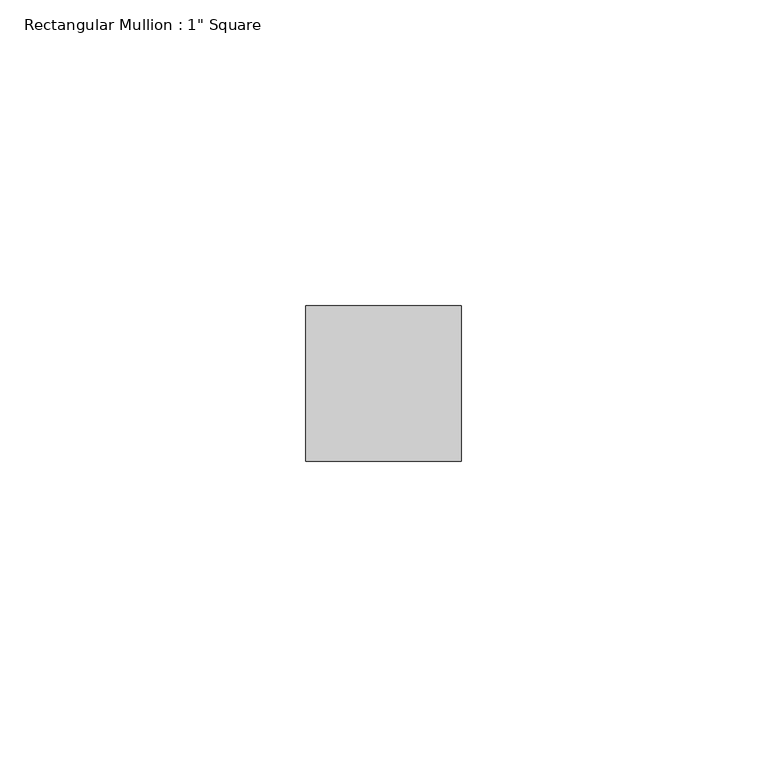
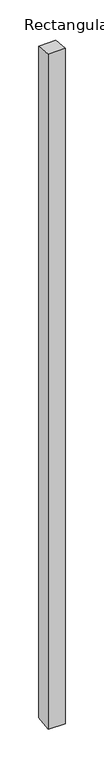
"""IFC4 building model written with IfcOpenShell, lengths in millimetres: member geometry."""

from ifc_helpers import new_model, si_unit, origin, place, context, project, spatial, faceted_brep, source, transform, mapped, element, save


def member_6b381be5(model_context):
    return source(origin(), model_context, "Body", "Brep", [
        faceted_brep([(-25.4, 12.7, -1.8520077), (0.0, 12.7, -1.4273957), (0.0, 12.7, -1065.3726043), (-25.4, 12.7, -1064.9479923), (-25.4, -12.7, 1.0027836), (-25.4, -12.7, -1067.8027836), (0.0, -12.7, 1.4273957), (0.0, -12.7, -1068.2273957)], [[[0, 1, 2, 3]], [[4, 0, 3, 5]], [[6, 4, 5, 7]], [[1, 6, 7, 2]], [[1, 0, 4, 6]], [[2, 7, 5, 3]]]),
    ])


if __name__ == "__main__":
    model = new_model("IFC4")
    model_context = context("Model", 3, world=origin())
    ifc_project = project(units=[si_unit("LENGTHUNIT", "METRE", prefix="MILLI")], contexts=[model_context])
    site = spatial("IfcSite", under=ifc_project)
    building = spatial("IfcBuilding", under=site)
    placement = place(None, origin())
    member_shape = member_6b381be5(model_context)
    element("IfcMember", 1, ObjectType="Rectangular Mullion : 1\" Square", at=placement, inside=building, context=model_context, shape_type="MappedRepresentation", body=[
        mapped(member_shape, transform((0.0, 0.0, 0.0), x_axis=(1.0, 0.0, 0.0), y_axis=(0.0, 1.0, 0.0), z_axis=(0.0, 0.0, 1.0))),
    ])
    save(model, "model.ifc")
